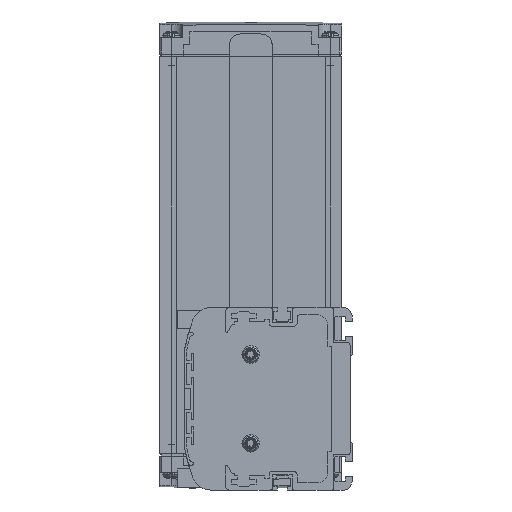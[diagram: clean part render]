
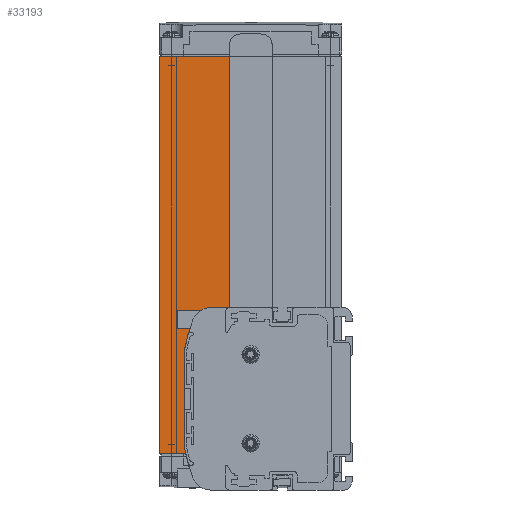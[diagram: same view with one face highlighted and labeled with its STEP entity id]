
A CAD part, left-side view. The second image highlights one B-rep face of the part: STEP entity #33193.
In plain terms, the highlighted planar face has unit normal (-1, 0, 0).
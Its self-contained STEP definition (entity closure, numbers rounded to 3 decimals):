
#8347=DIRECTION('',(0.,-1.,0.));
#8348=VECTOR('',#8347,11.203);
#8349=CARTESIAN_POINT('',(3.,82.5,-23.5));
#8350=LINE('',#8349,#8348);
#8351=DIRECTION('',(0.,0.,-1.));
#8352=VECTOR('',#8351,170.);
#8353=CARTESIAN_POINT('',(3.,82.5,146.5));
#8354=LINE('',#8353,#8352);
#8355=DIRECTION('',(0.,1.,0.));
#8356=VECTOR('',#8355,29.9);
#8357=CARTESIAN_POINT('',(3.,52.6,146.5));
#8358=LINE('',#8357,#8356);
#8359=DIRECTION('',(0.,-1.,0.));
#8360=VECTOR('',#8359,8.155);
#8361=CARTESIAN_POINT('',(3.,60.755,39.));
#8362=LINE('',#8361,#8360);
#11365=CARTESIAN_POINT('',(3.,-6.765,-6.));
#11366=DIRECTION('',(1.,0.,0.));
#11367=DIRECTION('',(0.,0.976,-0.219));
#11368=AXIS2_PLACEMENT_3D('',#11365,#11366,#11367);
#11374=CARTESIAN_POINT('',(3.,70.,-19.823));
#11375=DIRECTION('',(-1.,0.,0.));
#11376=DIRECTION('',(0.,1.,0.));
#11377=AXIS2_PLACEMENT_3D('',#11374,#11375,#11376);
#11387=DIRECTION('',(0.,0.,1.));
#11388=VECTOR('',#11387,39.645);
#11389=CARTESIAN_POINT('',(3.,72.,-19.823));
#11390=LINE('',#11389,#11388);
#11395=CARTESIAN_POINT('',(3.,70.,19.823));
#11396=DIRECTION('',(1.,0.,0.));
#11397=DIRECTION('',(0.,1.,0.));
#11398=AXIS2_PLACEMENT_3D('',#11395,#11396,#11397);
#11404=CARTESIAN_POINT('',(3.,-6.765,6.));
#11405=DIRECTION('',(1.,0.,0.));
#11406=DIRECTION('',(0.,0.984,0.177));
#11407=AXIS2_PLACEMENT_3D('',#11404,#11405,#11406);
#11409=CARTESIAN_POINT('',(3.,-6.765,6.));
#11410=DIRECTION('',(1.,0.,0.));
#11411=DIRECTION('',(0.,0.963,0.269));
#11412=AXIS2_PLACEMENT_3D('',#11409,#11410,#11411);
#11418=CARTESIAN_POINT('',(3.,60.755,31.));
#11419=DIRECTION('',(-1.,0.,0.));
#11420=DIRECTION('',(0.,0.,1.));
#11421=AXIS2_PLACEMENT_3D('',#11418,#11419,#11420);
#11812=DIRECTION('',(0.,-1.,0.));
#11813=VECTOR('',#11812,0.209);
#11814=CARTESIAN_POINT('',(3.,70.5,27.5));
#11815=LINE('',#11814,#11813);
#11836=DIRECTION('',(0.,0.,1.));
#11837=VECTOR('',#11836,0.762);
#11838=CARTESIAN_POINT('',(3.,70.5,26.738));
#11839=LINE('',#11838,#11837);
#11844=DIRECTION('',(0.,0.,1.));
#11845=VECTOR('',#11844,107.5);
#11846=CARTESIAN_POINT('',(3.,52.6,39.));
#11847=LINE('',#11846,#11845);
#17727=CARTESIAN_POINT('',(3.,82.5,-23.5));
#17729=VERTEX_POINT('',#17727);
#17824=CARTESIAN_POINT('',(3.,52.6,146.5));
#17825=VERTEX_POINT('',#17824);
#17826=CARTESIAN_POINT('',(3.,82.5,146.5));
#17827=VERTEX_POINT('',#17826);
#17860=CARTESIAN_POINT('',(3.,70.5,27.5));
#17861=VERTEX_POINT('',#17860);
#21891=CARTESIAN_POINT('',(3.,60.755,39.));
#21892=CARTESIAN_POINT('',(3.,52.6,39.));
#21893=VERTEX_POINT('',#21891);
#21894=VERTEX_POINT('',#21892);
#21895=CARTESIAN_POINT('',(3.,71.297,-23.5));
#21897=VERTEX_POINT('',#21895);
#21907=CARTESIAN_POINT('',(3.,70.5,26.738));
#21908=VERTEX_POINT('',#21907);
#21912=CARTESIAN_POINT('',(3.,70.291,27.5));
#21914=VERTEX_POINT('',#21912);
#21921=CARTESIAN_POINT('',(3.,72.,19.823));
#21922=CARTESIAN_POINT('',(3.,71.968,20.177));
#21923=VERTEX_POINT('',#21921);
#21924=VERTEX_POINT('',#21922);
#21925=CARTESIAN_POINT('',(3.,68.257,33.778));
#21926=VERTEX_POINT('',#21925);
#21939=CARTESIAN_POINT('',(3.,71.968,-20.177));
#21940=VERTEX_POINT('',#21939);
#21941=CARTESIAN_POINT('',(3.,72.,-19.823));
#21942=VERTEX_POINT('',#21941);
#33161=CARTESIAN_POINT('',(3.,67.55,61.5));
#33162=DIRECTION('',(1.,0.,0.));
#33163=DIRECTION('',(0.,-1.,0.));
#33164=AXIS2_PLACEMENT_3D('',#33161,#33162,#33163);
#33165=PLANE('',#33164);
#33167=ORIENTED_EDGE('',*,*,#33166,.F.);
#33169=ORIENTED_EDGE('',*,*,#33168,.T.);
#33171=ORIENTED_EDGE('',*,*,#33170,.F.);
#33173=ORIENTED_EDGE('',*,*,#33172,.F.);
#33175=ORIENTED_EDGE('',*,*,#33174,.F.);
#33177=ORIENTED_EDGE('',*,*,#33176,.F.);
#33179=ORIENTED_EDGE('',*,*,#33178,.F.);
#33181=ORIENTED_EDGE('',*,*,#33180,.F.);
#33183=ORIENTED_EDGE('',*,*,#33182,.T.);
#33185=ORIENTED_EDGE('',*,*,#33184,.F.);
#33186=ORIENTED_EDGE('',*,*,#27919,.F.);
#33187=ORIENTED_EDGE('',*,*,#33149,.F.);
#33188=ORIENTED_EDGE('',*,*,#31041,.F.);
#33190=ORIENTED_EDGE('',*,*,#33189,.F.);
#33191=EDGE_LOOP('',(#33167,#33169,#33171,#33173,#33175,#33177,#33179,#33181,
#33183,#33185,#33186,#33187,#33188,#33190));
#33192=FACE_OUTER_BOUND('',#33191,.F.);
#33193=ADVANCED_FACE('',(#33192),#33165,.F.);
#11369=CIRCLE('',#11368,80.);
#11378=CIRCLE('',#11377,2.);
#11399=CIRCLE('',#11398,2.);
#11408=CIRCLE('',#11407,80.);
#11413=CIRCLE('',#11412,80.);
#11422=CIRCLE('',#11421,8.);
#27919=EDGE_CURVE('',#17729,#21897,#8350,.T.);
#31041=EDGE_CURVE('',#17825,#17827,#8358,.T.);
#33149=EDGE_CURVE('',#17827,#17729,#8354,.T.);
#33166=EDGE_CURVE('',#21893,#21894,#8362,.T.);
#33168=EDGE_CURVE('',#21893,#21926,#11422,.T.);
#33170=EDGE_CURVE('',#21914,#21926,#11413,.T.);
#33172=EDGE_CURVE('',#17861,#21914,#11815,.T.);
#33174=EDGE_CURVE('',#21908,#17861,#11839,.T.);
#33176=EDGE_CURVE('',#21924,#21908,#11408,.T.);
#33178=EDGE_CURVE('',#21923,#21924,#11399,.T.);
#33180=EDGE_CURVE('',#21942,#21923,#11390,.T.);
#33182=EDGE_CURVE('',#21942,#21940,#11378,.T.);
#33184=EDGE_CURVE('',#21897,#21940,#11369,.T.);
#33189=EDGE_CURVE('',#21894,#17825,#11847,.T.);
